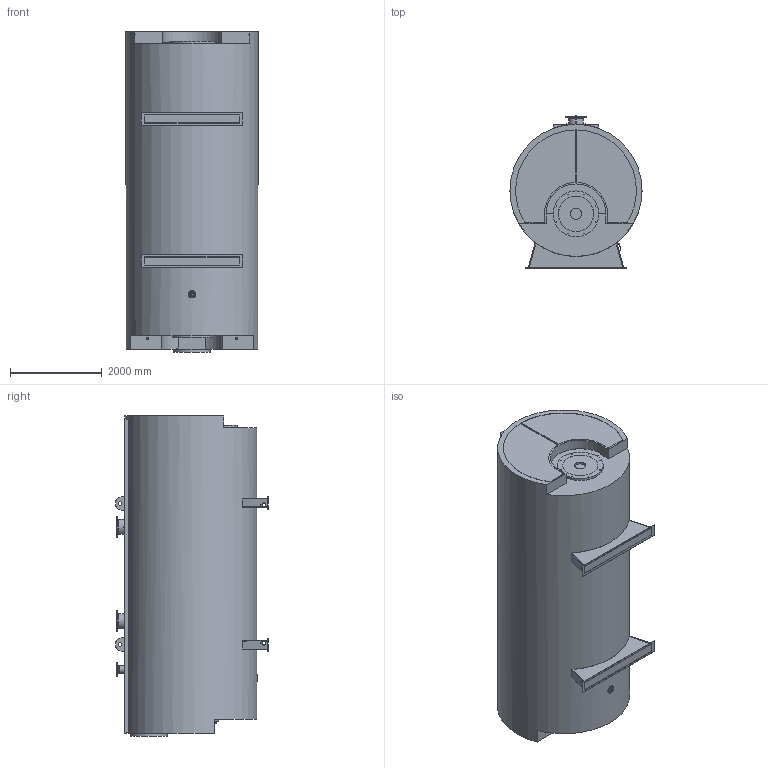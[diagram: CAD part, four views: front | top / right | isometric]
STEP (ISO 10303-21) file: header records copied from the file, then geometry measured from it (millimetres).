
FILE_DESCRIPTION(('TFLEX Exchange Step'),'2;1');
FILE_NAME('MA4A003_7733795.stp', '2024-08-29T16:28:51+03:00',('kort'),('Unknown organisation'),'TFLEX Exchange 2024.2','T-FLEX CAD','Unknown authorisation');
FILE_SCHEMA( ('AUTOMOTIVE_DESIGN { 1 0 10303 214 1 1 1 1 }') );
Length unit declared in the file: millimetre
Products named in the file (1): 7372370 Grundkessel MA4A0_3
Bounding box: 2878.98 x 3316 x 6995 mm (x, y, z)
Volume: 44003470341.8 mm3; surface area: 88191072.6 mm2
Topology: 1 solids, 1 shells, 403 faces, 1116 edges, 760 vertices
Faces by surface type: plane 188, cylinder 170, torus 20, bspline 12, cone 9, extrusion 4
Full cylindrical faces by diameter (mm): 2.2 x4, 3.2 x4, 3.3 x4, 4 x4, 6.5 x4, 13 x4, 14 x8, 18 x4, 18.63 x2, 22 x32, 41.9 x2, 47.8 x2, 48.3 x2, 80 x6, 102 x1, 165 x1, 167 x1, 168.3 x2, 212 x1, 215 x1, 250 x1, 285 x1, 305 x1, 325 x2, 365 x1, 440 x2, 545 x1, 555 x1, 800 x1, 860 x1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
Entity records: 15269 total; most frequent: CARTESIAN_POINT 4187, DIRECTION 2420, ORIENTED_EDGE 2234, EDGE_CURVE 1117, AXIS2_PLACEMENT_3D 962, VERTEX_POINT 762, EDGE_LOOP 553, FACE_BOUND 553
